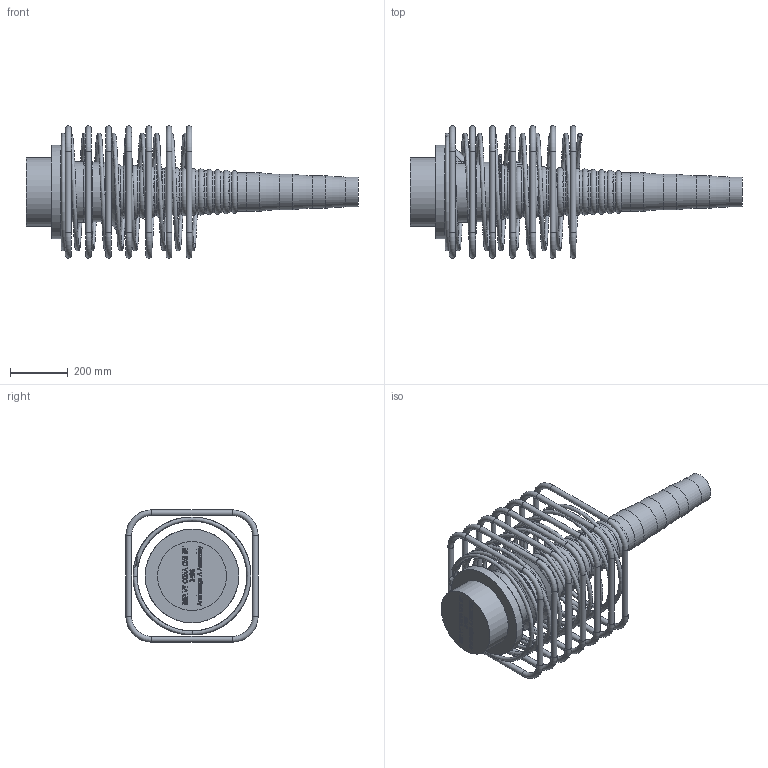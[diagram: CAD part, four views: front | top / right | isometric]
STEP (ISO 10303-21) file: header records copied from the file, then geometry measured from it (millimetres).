
FILE_DESCRIPTION(/* description */ (''),/* implementation_level */ '2;1');
FILE_NAME(/* name */ 'BBR VT CONA CMI BT 2406_Anchorage A Assembly_CS-34,28.stp',/* time_stamp */ '2025-05-21T15:23:17+02:00',/* author */ ('tk'),/* organization */ (''),/* preprocessor_version */ 'ST-DEVELOPER v20',/* originating_system */ 'Autodesk Inventor 2024',/* authorisation */ '');
FILE_SCHEMA (('AUTOMOTIVE_DESIGN { 1 0 10303 214 3 1 1 }'));
Length unit declared in the file: millimetre
Products named in the file (1): BBR VT CONA CMI BT 2406_Anchorage A Assembly_CS-34,28
Bounding box: 1154.27 x 460 x 460 mm (x, y, z)
Volume: 33163225.3 mm3; surface area: 2098032.2 mm2
Topology: 9 solids, 9 shells, 783 faces, 2079 edges, 1357 vertices
Faces by surface type: plane 329, bspline 294, torus 93, cylinder 48, cone 17, sphere 2
Full cylindrical faces by diameter (mm): 20 x28, 34 x1, 57 x1, 104 x1, 114 x1, 124 x1, 134 x1, 208 x1, 240 x1, 258 x1, 263 x1, 325 x1
Entity records: 31620 total; most frequent: CARTESIAN_POINT 13079, ORIENTED_EDGE 4154, DIRECTION 2789, EDGE_CURVE 2077, VERTEX_POINT 1357, LINE 1133, VECTOR 1133, EDGE_LOOP 844
